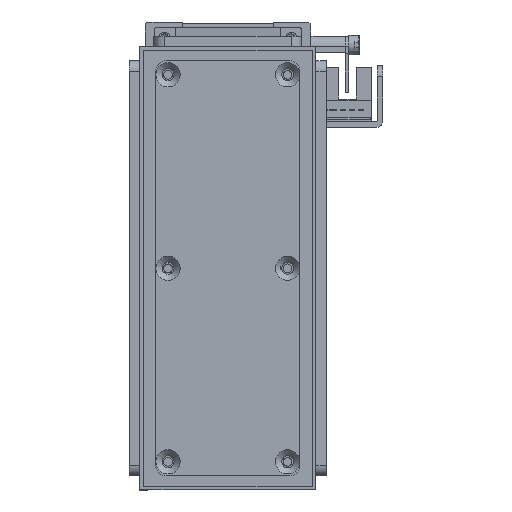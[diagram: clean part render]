
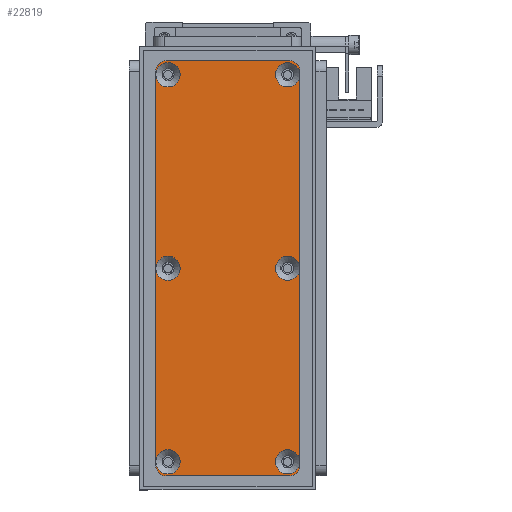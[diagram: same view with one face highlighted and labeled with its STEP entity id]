
A CAD part, front view. The second image highlights one B-rep face of the part: STEP entity #22819.
In plain terms, the highlighted planar face has unit normal (0, -1, 0) as drawn and (0, 0, 1) by its records, which use the part's own axes.
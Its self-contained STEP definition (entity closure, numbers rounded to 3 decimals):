
#753=FACE_BOUND('',#4311,.T.);
#754=FACE_BOUND('',#4312,.T.);
#755=FACE_BOUND('',#4313,.T.);
#756=FACE_BOUND('',#4314,.T.);
#757=FACE_BOUND('',#4315,.T.);
#758=FACE_BOUND('',#4316,.T.);
#1567=PLANE('',#25533);
#2735=FACE_OUTER_BOUND('',#4310,.T.);
#4310=EDGE_LOOP('',(#20991,#20992,#20993,#20994,#20995,#20996,#20997,#20998));
#4311=EDGE_LOOP('',(#20999));
#4312=EDGE_LOOP('',(#21000));
#4313=EDGE_LOOP('',(#21001));
#4314=EDGE_LOOP('',(#21002));
#4315=EDGE_LOOP('',(#21003));
#4316=EDGE_LOOP('',(#21004));
#6417=LINE('',#39727,#8522);
#6421=LINE('',#39739,#8526);
#6425=LINE('',#39751,#8530);
#6429=LINE('',#39761,#8534);
#8522=VECTOR('',#31930,10.);
#8526=VECTOR('',#31942,10.);
#8530=VECTOR('',#31954,10.);
#8534=VECTOR('',#31966,10.);
#9490=CIRCLE('',#25487,3.45);
#9493=CIRCLE('',#25492,3.45);
#9496=CIRCLE('',#25497,3.45);
#9499=CIRCLE('',#25502,3.45);
#9502=CIRCLE('',#25507,3.45);
#9505=CIRCLE('',#25512,3.45);
#9509=CIRCLE('',#25518,3.);
#9511=CIRCLE('',#25522,3.);
#9513=CIRCLE('',#25526,3.);
#9515=CIRCLE('',#25530,3.);
#11574=VERTEX_POINT('',#39655);
#11577=VERTEX_POINT('',#39665);
#11580=VERTEX_POINT('',#39675);
#11583=VERTEX_POINT('',#39685);
#11586=VERTEX_POINT('',#39695);
#11589=VERTEX_POINT('',#39705);
#11594=VERTEX_POINT('',#39718);
#11595=VERTEX_POINT('',#39720);
#11597=VERTEX_POINT('',#39726);
#11599=VERTEX_POINT('',#39732);
#11601=VERTEX_POINT('',#39738);
#11603=VERTEX_POINT('',#39744);
#11605=VERTEX_POINT('',#39750);
#11607=VERTEX_POINT('',#39756);
#14695=EDGE_CURVE('',#11574,#11574,#9490,.T.);
#14700=EDGE_CURVE('',#11577,#11577,#9493,.T.);
#14705=EDGE_CURVE('',#11580,#11580,#9496,.T.);
#14710=EDGE_CURVE('',#11583,#11583,#9499,.T.);
#14715=EDGE_CURVE('',#11586,#11586,#9502,.T.);
#14720=EDGE_CURVE('',#11589,#11589,#9505,.T.);
#14727=EDGE_CURVE('',#11595,#11594,#9509,.T.);
#14730=EDGE_CURVE('',#11597,#11595,#6417,.T.);
#14733=EDGE_CURVE('',#11599,#11597,#9511,.T.);
#14736=EDGE_CURVE('',#11601,#11599,#6421,.T.);
#14739=EDGE_CURVE('',#11603,#11601,#9513,.T.);
#14742=EDGE_CURVE('',#11605,#11603,#6425,.T.);
#14745=EDGE_CURVE('',#11607,#11605,#9515,.T.);
#14748=EDGE_CURVE('',#11594,#11607,#6429,.T.);
#20991=ORIENTED_EDGE('',*,*,#14748,.T.);
#20992=ORIENTED_EDGE('',*,*,#14745,.T.);
#20993=ORIENTED_EDGE('',*,*,#14742,.T.);
#20994=ORIENTED_EDGE('',*,*,#14739,.T.);
#20995=ORIENTED_EDGE('',*,*,#14736,.T.);
#20996=ORIENTED_EDGE('',*,*,#14733,.T.);
#20997=ORIENTED_EDGE('',*,*,#14730,.T.);
#20998=ORIENTED_EDGE('',*,*,#14727,.T.);
#20999=ORIENTED_EDGE('',*,*,#14695,.T.);
#21000=ORIENTED_EDGE('',*,*,#14700,.T.);
#21001=ORIENTED_EDGE('',*,*,#14705,.T.);
#21002=ORIENTED_EDGE('',*,*,#14710,.T.);
#21003=ORIENTED_EDGE('',*,*,#14715,.T.);
#21004=ORIENTED_EDGE('',*,*,#14720,.T.);
#22819=ADVANCED_FACE('',(#2735,#753,#754,#755,#756,#757,#758),#1567,.T.);
#25487=AXIS2_PLACEMENT_3D('',#39656,#31849,#31850);
#25492=AXIS2_PLACEMENT_3D('',#39666,#31861,#31862);
#25497=AXIS2_PLACEMENT_3D('',#39676,#31873,#31874);
#25502=AXIS2_PLACEMENT_3D('',#39686,#31885,#31886);
#25507=AXIS2_PLACEMENT_3D('',#39696,#31897,#31898);
#25512=AXIS2_PLACEMENT_3D('',#39706,#31909,#31910);
#25518=AXIS2_PLACEMENT_3D('',#39721,#31924,#31925);
#25522=AXIS2_PLACEMENT_3D('',#39733,#31936,#31937);
#25526=AXIS2_PLACEMENT_3D('',#39745,#31948,#31949);
#25530=AXIS2_PLACEMENT_3D('',#39757,#31960,#31961);
#25533=AXIS2_PLACEMENT_3D('',#39763,#31969,#31970);
#31849=DIRECTION('center_axis',(0.,0.,-1.));
#31850=DIRECTION('ref_axis',(1.,0.,0.));
#31861=DIRECTION('center_axis',(0.,0.,-1.));
#31862=DIRECTION('ref_axis',(1.,0.,0.));
#31873=DIRECTION('center_axis',(0.,0.,-1.));
#31874=DIRECTION('ref_axis',(1.,0.,0.));
#31885=DIRECTION('center_axis',(0.,0.,-1.));
#31886=DIRECTION('ref_axis',(1.,0.,0.));
#31897=DIRECTION('center_axis',(0.,0.,-1.));
#31898=DIRECTION('ref_axis',(1.,0.,0.));
#31909=DIRECTION('center_axis',(0.,0.,-1.));
#31910=DIRECTION('ref_axis',(1.,0.,0.));
#31924=DIRECTION('center_axis',(0.,0.,1.));
#31925=DIRECTION('ref_axis',(-1.,0.,0.));
#31930=DIRECTION('',(0.,1.,0.));
#31936=DIRECTION('center_axis',(0.,0.,1.));
#31937=DIRECTION('ref_axis',(0.,1.,0.));
#31942=DIRECTION('',(1.,0.,0.));
#31948=DIRECTION('center_axis',(0.,0.,1.));
#31949=DIRECTION('ref_axis',(1.,0.,0.));
#31954=DIRECTION('',(0.,-1.,0.));
#31960=DIRECTION('center_axis',(0.,0.,1.));
#31961=DIRECTION('ref_axis',(0.,-1.,0.));
#31966=DIRECTION('',(-1.,0.,0.));
#31969=DIRECTION('center_axis',(0.,0.,1.));
#31970=DIRECTION('ref_axis',(1.,0.,0.));
#39655=CARTESIAN_POINT('',(110.55,3.5,3.));
#39656=CARTESIAN_POINT('Origin',(114.,3.5,3.));
#39665=CARTESIAN_POINT('',(55.55,37.5,3.));
#39666=CARTESIAN_POINT('Origin',(59.,37.5,3.));
#39675=CARTESIAN_POINT('',(55.55,3.5,3.));
#39676=CARTESIAN_POINT('Origin',(59.,3.5,3.));
#39685=CARTESIAN_POINT('',(0.55,37.5,3.));
#39686=CARTESIAN_POINT('Origin',(4.,37.5,3.));
#39695=CARTESIAN_POINT('',(110.55,37.5,3.));
#39696=CARTESIAN_POINT('Origin',(114.,37.5,3.));
#39705=CARTESIAN_POINT('',(0.55,3.5,3.));
#39706=CARTESIAN_POINT('Origin',(4.,3.5,3.));
#39718=CARTESIAN_POINT('',(115.,41.,3.));
#39720=CARTESIAN_POINT('',(118.,38.,3.));
#39721=CARTESIAN_POINT('Origin',(115.,38.,3.));
#39726=CARTESIAN_POINT('',(118.,3.,3.));
#39727=CARTESIAN_POINT('',(118.,38.,3.));
#39732=CARTESIAN_POINT('',(115.,0.,3.));
#39733=CARTESIAN_POINT('Origin',(115.,3.,3.));
#39738=CARTESIAN_POINT('',(3.,0.,3.));
#39739=CARTESIAN_POINT('',(115.,0.,3.));
#39744=CARTESIAN_POINT('',(0.,3.,3.));
#39745=CARTESIAN_POINT('Origin',(3.,3.,3.));
#39750=CARTESIAN_POINT('',(0.,38.,3.));
#39751=CARTESIAN_POINT('',(0.,3.,3.));
#39756=CARTESIAN_POINT('',(3.,41.,3.));
#39757=CARTESIAN_POINT('Origin',(3.,38.,3.));
#39761=CARTESIAN_POINT('',(3.,41.,3.));
#39763=CARTESIAN_POINT('Origin',(59.,20.5,3.));
